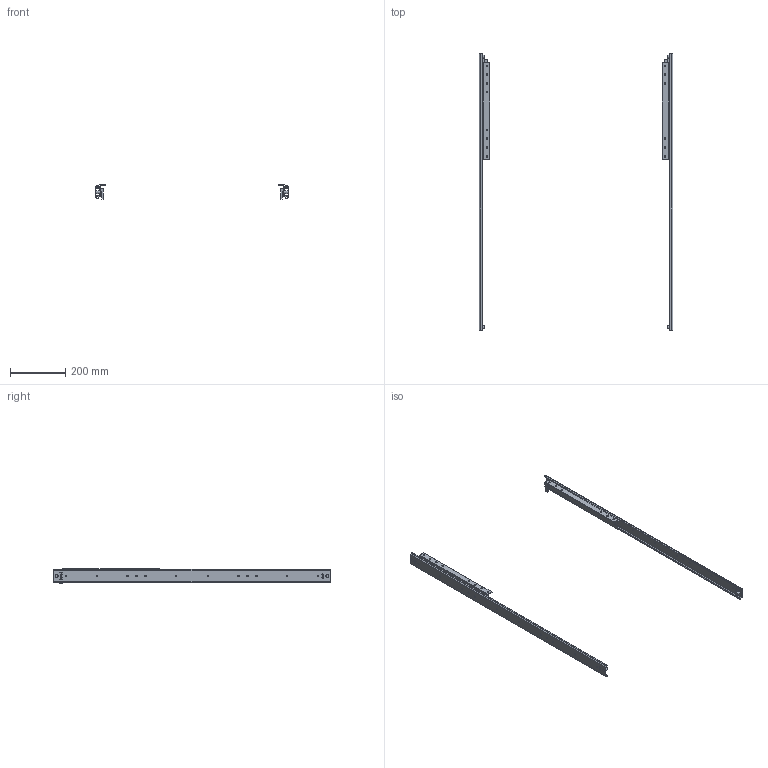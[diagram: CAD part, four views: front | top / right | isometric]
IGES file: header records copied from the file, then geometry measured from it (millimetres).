
Start section: Data from Parasolid IGES Translator 15.0.47, Copyright(c) 2006 Siemens P LM Software. All Rights Reserved.
Global section: file name: 9133040.igs; native system:  By UGS Corp.; preprocessor: XPlus GENERIC/IGES 3.0; author: Noname; organization: Noname; date: 20140620.121931; units: millimetre
Bounding box: 700 x 1000 x 50.88 mm (x, y, z)
Surface area: 381126.7 mm2 (no closed solid volume)
Topology: 0 solids, 0 shells, 162 faces, 908 edges, 808 vertices
Faces by surface type: extrusion 98, revolution 64
